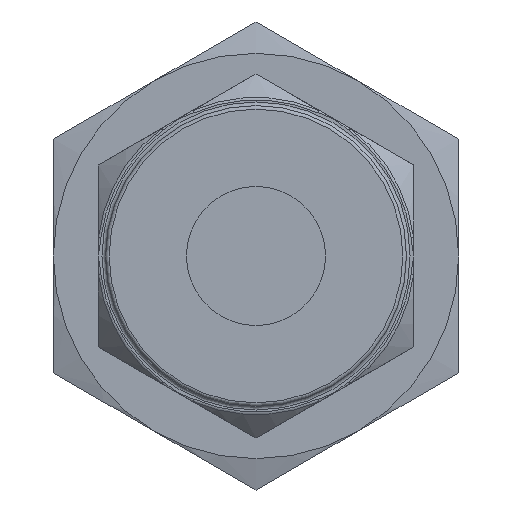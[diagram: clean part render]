
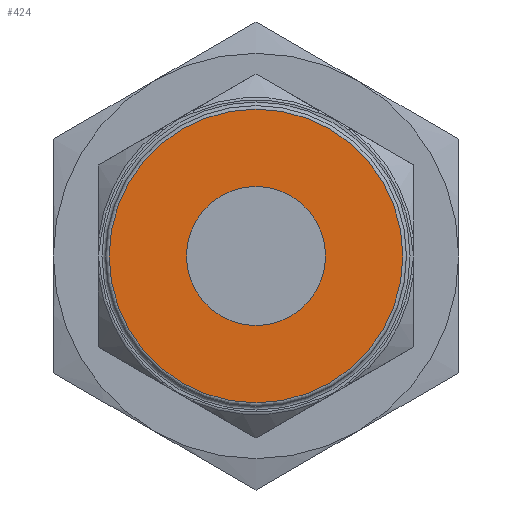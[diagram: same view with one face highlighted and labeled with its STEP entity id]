
A CAD part, left-side view. The second image highlights one B-rep face of the part: STEP entity #424.
In plain terms, the highlighted planar face has unit normal (-1, 0, 0).
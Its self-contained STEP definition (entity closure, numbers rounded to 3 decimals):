
#424 = ADVANCED_FACE( '', ( #1241, #1242 ), #1243, .T. );
#1241 = FACE_BOUND( '', #2496, .T. );
#1242 = FACE_OUTER_BOUND( '', #2497, .T. );
#1243 = PLANE( '', #2498 );
#2496 = EDGE_LOOP( '', ( #6508 ) );
#2497 = EDGE_LOOP( '', ( #6509 ) );
#2498 = AXIS2_PLACEMENT_3D( '', #6510, #6511, #6512 );
#6508 = ORIENTED_EDGE( '', *, *, #10363, .T. );
#6509 = ORIENTED_EDGE( '', *, *, #10364, .T. );
#6510 = CARTESIAN_POINT( '', ( 0., 0., 0. ) );
#6511 = DIRECTION( '', ( -1., 0., 0. ) );
#6512 = DIRECTION( '', ( 0., 0., 1. ) );
#10363 = EDGE_CURVE( '', #11739, #11739, #11740, .T. );
#10364 = EDGE_CURVE( '', #11741, #11741, #11742, .T. );
#11739 = VERTEX_POINT( '', #13741 );
#11740 = CIRCLE( '', #13742, 4.902 );
#11741 = VERTEX_POINT( '', #13743 );
#11742 = CIRCLE( '', #13744, 10.351 );
#13741 = CARTESIAN_POINT( '', ( 0., 0., 4.902 ) );
#13742 = AXIS2_PLACEMENT_3D( '', #20094, #20095, #20096 );
#13743 = CARTESIAN_POINT( '', ( 0., -10.351, 0. ) );
#13744 = AXIS2_PLACEMENT_3D( '', #20097, #20098, #20099 );
#20094 = CARTESIAN_POINT( '', ( 0., 0., 0. ) );
#20095 = DIRECTION( '', ( 1., 0., 0. ) );
#20096 = DIRECTION( '', ( 0., 0., 1. ) );
#20097 = CARTESIAN_POINT( '', ( 0., 0., 0. ) );
#20098 = DIRECTION( '', ( -1., 0., 0. ) );
#20099 = DIRECTION( '', ( 0., -1., 0. ) );
